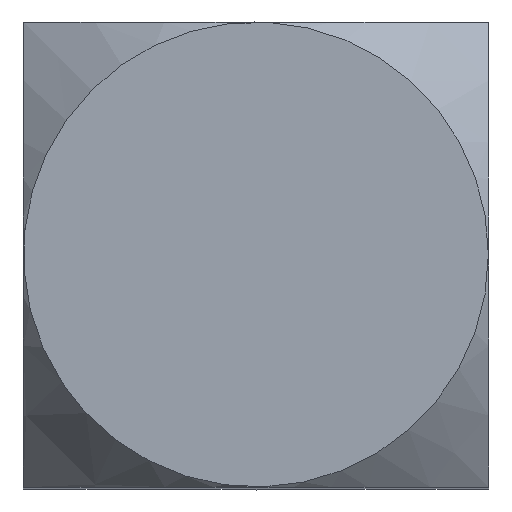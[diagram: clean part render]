
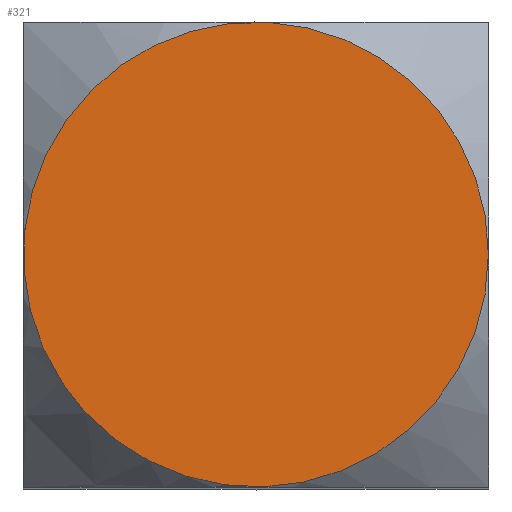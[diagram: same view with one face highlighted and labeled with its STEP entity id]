
A CAD part, top view. The second image highlights one B-rep face of the part: STEP entity #321.
In plain terms, the highlighted planar face has unit normal (0, 0, 1).
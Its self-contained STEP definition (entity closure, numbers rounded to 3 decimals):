
#79=ORIENTED_EDGE('',*,*,#120,.T.);
#120=EDGE_CURVE('',#142,#142,#149,.T.);
#142=VERTEX_POINT('',#528);
#149=CIRCLE('',#343,9.495);
#167=EDGE_LOOP('',(#79));
#189=FACE_BOUND('',#167,.T.);
#206=PLANE('',#344);
#321=ADVANCED_FACE('',(#189),#206,.T.);
#343=AXIS2_PLACEMENT_3D('',#527,#382,#383);
#344=AXIS2_PLACEMENT_3D('',#529,#384,#385);
#382=DIRECTION('',(0.,0.,1.));
#383=DIRECTION('',(1.,0.,0.));
#384=DIRECTION('',(0.,0.,1.));
#385=DIRECTION('',(1.,0.,0.));
#527=CARTESIAN_POINT('',(0.,0.,0.));
#528=CARTESIAN_POINT('',(9.495,0.,0.));
#529=CARTESIAN_POINT('',(0.,0.,0.));
